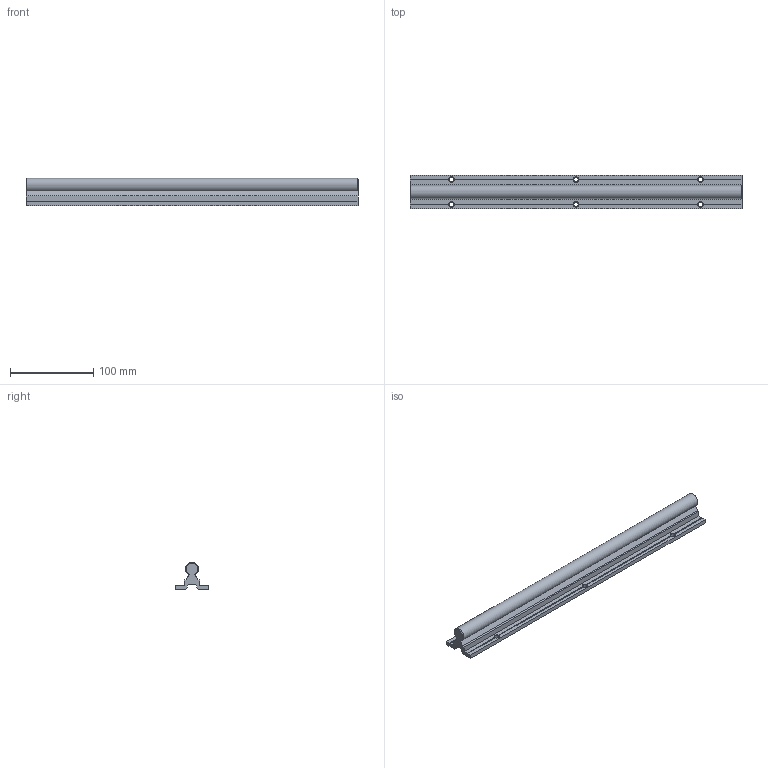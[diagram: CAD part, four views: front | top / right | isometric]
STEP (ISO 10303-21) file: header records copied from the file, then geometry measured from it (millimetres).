
FILE_DESCRIPTION(/* description */ (''),/* implementation_level */ '2;1');
FILE_NAME(/* name */ 'C:\Users\David\Desktop\stepFiles\Profilfuehrung\LFS16x400.stp',/* time_stamp */ '2018-06-24T15:18:10+02:00',/* author */ ('Buskamp'),/* organization */ (''),/* preprocessor_version */ 'ST-DEVELOPER v17',/* originating_system */ 'Autodesk Inventor 2019',/* authorisation */ '');
FILE_SCHEMA (('AUTOMOTIVE_DESIGN { 1 0 10303 214 3 1 1 }'));
Length unit declared in the file: millimetre
Products named in the file (1): Linearführung D16xvariabel
Bounding box: 400 x 40 x 32.97 mm (x, y, z)
Volume: 204161.9 mm3; surface area: 63514.8 mm2
Topology: 1 solids, 1 shells, 64 faces, 186 edges, 118 vertices
Faces by surface type: plane 43, cone 14, cylinder 7
Full cylindrical faces by diameter (mm): 5.5 x6
Entity records: 2139 total; most frequent: CARTESIAN_POINT 425, ORIENTED_EDGE 372, DIRECTION 346, EDGE_CURVE 186, AXIS2_PLACEMENT_3D 123, VERTEX_POINT 118, LINE 100, VECTOR 100
